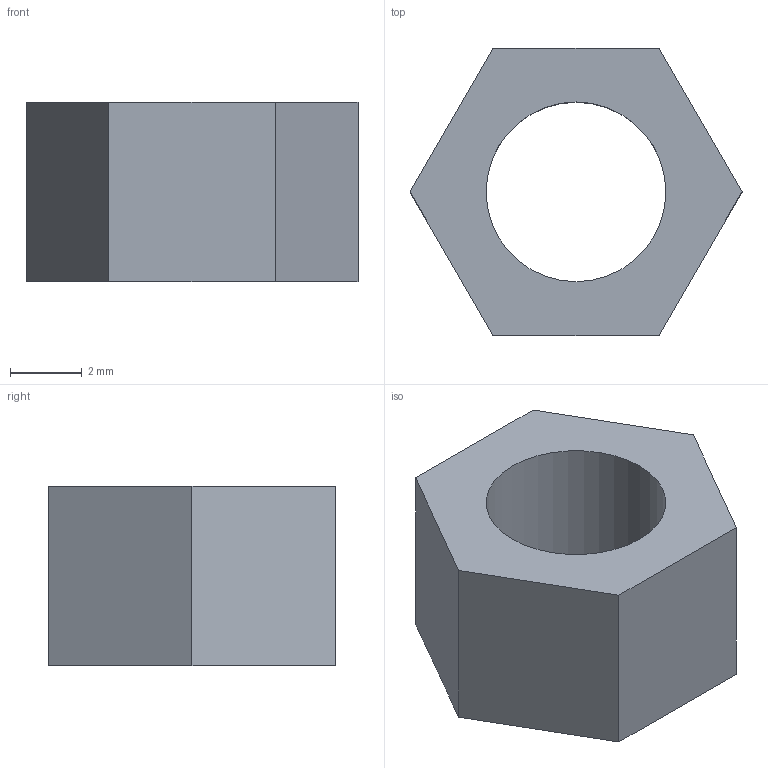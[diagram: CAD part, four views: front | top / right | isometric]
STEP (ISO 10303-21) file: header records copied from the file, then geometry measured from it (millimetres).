
FILE_DESCRIPTION(('Open CASCADE Model'),'2;1');
FILE_NAME('Open CASCADE Shape Model','2026-11-14T12:29:50',('Author'),( 'Open CASCADE'),'Open CASCADE STEP processor 8.0','Open CASCADE 8.0' ,'Unknown');
FILE_SCHEMA(('AUTOMOTIVE_DESIGN { 1 0 10303 214 1 1 1 1 }'));
Length unit declared in the file: millimetre
Products named in the file (1): Open CASCADE STEP translator 8.0 3
Bounding box: 9.24 x 8 x 5 mm (x, y, z)
Volume: 179 mm3; surface area: 288.7 mm2
Topology: 1 solids, 1 shells, 9 faces, 21 edges, 14 vertices
Faces by surface type: plane 8, cylinder 1
Full cylindrical faces by diameter (mm): 5 x1
Entity records: 544 total; most frequent: CARTESIAN_POINT 87, DIRECTION 85, LINE 59, VECTOR 59, ORIENTED_EDGE 42, PCURVE 42, DEFINITIONAL_REPRESENTATION 42, EDGE_CURVE 21
